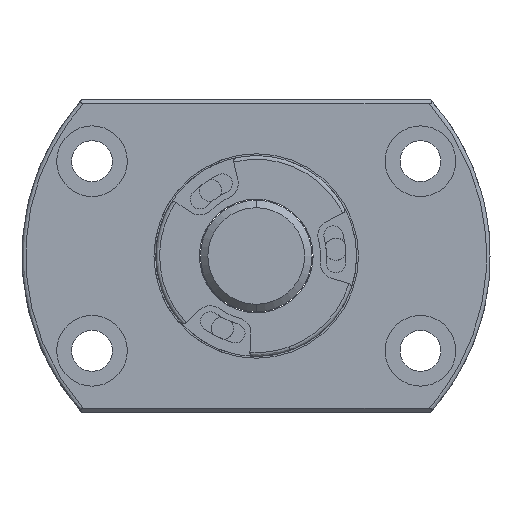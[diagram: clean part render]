
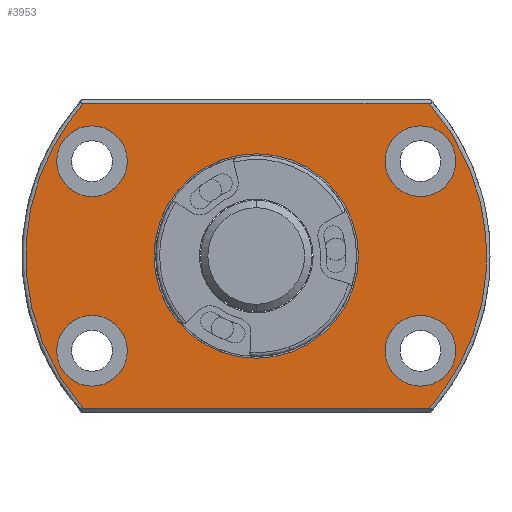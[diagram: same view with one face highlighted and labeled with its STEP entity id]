
A CAD part, left-side view. The second image highlights one B-rep face of the part: STEP entity #3953.
In plain terms, the highlighted planar face has unit normal (-1, 0, 0).
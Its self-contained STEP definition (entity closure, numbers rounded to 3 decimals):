
#157 = CIRCLE ( 'NONE', #3848, 4.75 ) ;
#158 = CARTESIAN_POINT ( 'NONE',  ( 0., 23.254, -20.5 ) ) ;
#221 = AXIS2_PLACEMENT_3D ( 'NONE', #6970, #3148, #7588 ) ;
#329 = VERTEX_POINT ( 'NONE', #2839 ) ;
#341 = VERTEX_POINT ( 'NONE', #4611 ) ;
#352 = LINE ( 'NONE', #3278, #8251 ) ;
#398 = ORIENTED_EDGE ( 'NONE', *, *, #752, .F. ) ;
#417 = EDGE_LOOP ( 'NONE', ( #3713, #490 ) ) ;
#490 = ORIENTED_EDGE ( 'NONE', *, *, #3958, .F. ) ;
#739 = DIRECTION ( 'NONE',  ( 0., -1., 0. ) ) ;
#743 = CARTESIAN_POINT ( 'NONE',  ( 0., -23.254, -20.5 ) ) ;
#751 = CARTESIAN_POINT ( 'NONE',  ( 0., 22.084, 12.75 ) ) ;
#752 = EDGE_CURVE ( 'NONE', #7512, #812, #5473, .T. ) ;
#812 = VERTEX_POINT ( 'NONE', #4678 ) ;
#816 = EDGE_CURVE ( 'NONE', #2095, #7512, #4579, .T. ) ;
#936 = VERTEX_POINT ( 'NONE', #7378 ) ;
#953 = CARTESIAN_POINT ( 'NONE',  ( 0., -22.084, -12.75 ) ) ;
#1092 = AXIS2_PLACEMENT_3D ( 'NONE', #2702, #3231, #3933 ) ;
#1155 = CARTESIAN_POINT ( 'NONE',  ( 0., -23.254, 20.5 ) ) ;
#1216 = CARTESIAN_POINT ( 'NONE',  ( 0., -22.084, 17.5 ) ) ;
#1249 = DIRECTION ( 'NONE',  ( -1., 0., 0. ) ) ;
#1336 = FACE_BOUND ( 'NONE', #3154, .T. ) ;
#1509 = CIRCLE ( 'NONE', #6398, 4.75 ) ;
#1804 = PLANE ( 'NONE',  #3384 ) ;
#1831 = DIRECTION ( 'NONE',  ( 0., 0., -1. ) ) ;
#1909 = DIRECTION ( 'NONE',  ( 0., 0., 1. ) ) ;
#1911 = CARTESIAN_POINT ( 'NONE',  ( 0., 0., 13.75 ) ) ;
#1934 = ORIENTED_EDGE ( 'NONE', *, *, #816, .F. ) ;
#2080 = EDGE_CURVE ( 'NONE', #936, #4534, #157, .T. ) ;
#2095 = VERTEX_POINT ( 'NONE', #1155 ) ;
#2104 = DIRECTION ( 'NONE',  ( 1., 0., 0. ) ) ;
#2125 = VERTEX_POINT ( 'NONE', #7521 ) ;
#2130 = EDGE_CURVE ( 'NONE', #7005, #3297, #6564, .T. ) ;
#2131 =( BOUNDED_CURVE ( )  B_SPLINE_CURVE ( 3, ( #158, #5943, #5265, #2732 ),
 .UNSPECIFIED., .F., .T. ) 
 B_SPLINE_CURVE_WITH_KNOTS ( ( 4, 4 ),
 ( 0., 1. ),
 .UNSPECIFIED. ) 
 CURVE ( )  GEOMETRIC_REPRESENTATION_ITEM ( )  RATIONAL_B_SPLINE_CURVE ( ( 1., 0.833, 0.833, 1. ) ) 
 REPRESENTATION_ITEM ( '' )  );
#2156 = CARTESIAN_POINT ( 'NONE',  ( 0., -34.098, 8.199 ) ) ;
#2227 = CIRCLE ( 'NONE', #3100, 4.75 ) ;
#2353 = EDGE_CURVE ( 'NONE', #3199, #2095, #352, .T. ) ;
#2363 = ORIENTED_EDGE ( 'NONE', *, *, #5379, .T. ) ;
#2638 = ORIENTED_EDGE ( 'NONE', *, *, #4566, .T. ) ;
#2702 = CARTESIAN_POINT ( 'NONE',  ( 0., 22.084, -12.75 ) ) ;
#2732 = CARTESIAN_POINT ( 'NONE',  ( 0., 23.254, 20.5 ) ) ;
#2839 = CARTESIAN_POINT ( 'NONE',  ( 0., 22.084, 17.5 ) ) ;
#3094 = AXIS2_PLACEMENT_3D ( 'NONE', #751, #2104, #6043 ) ;
#3100 = AXIS2_PLACEMENT_3D ( 'NONE', #3279, #3875, #7696 ) ;
#3145 = CARTESIAN_POINT ( 'NONE',  ( 0., 0., 0. ) ) ;
#3148 = DIRECTION ( 'NONE',  ( 1., 0., 0. ) ) ;
#3154 = EDGE_LOOP ( 'NONE', ( #5312, #2638 ) ) ;
#3199 = VERTEX_POINT ( 'NONE', #5893 ) ;
#3231 = DIRECTION ( 'NONE',  ( 1., 0., 0. ) ) ;
#3278 = CARTESIAN_POINT ( 'NONE',  ( 0., 0., 20.5 ) ) ;
#3279 = CARTESIAN_POINT ( 'NONE',  ( 0., -22.084, 12.75 ) ) ;
#3283 = CARTESIAN_POINT ( 'NONE',  ( 0., 0., -20.5 ) ) ;
#3297 = VERTEX_POINT ( 'NONE', #3481 ) ;
#3384 = AXIS2_PLACEMENT_3D ( 'NONE', #3145, #6368, #1831 ) ;
#3464 = CARTESIAN_POINT ( 'NONE',  ( 0., -34.098, -8.199 ) ) ;
#3481 = CARTESIAN_POINT ( 'NONE',  ( 0., 0., -13.75 ) ) ;
#3596 = EDGE_CURVE ( 'NONE', #812, #3199, #2131, .T. ) ;
#3630 = CIRCLE ( 'NONE', #1092, 4.75 ) ;
#3660 = DIRECTION ( 'NONE',  ( 1., 0., 0. ) ) ;
#3713 = ORIENTED_EDGE ( 'NONE', *, *, #2130, .F. ) ;
#3799 = ORIENTED_EDGE ( 'NONE', *, *, #5317, .T. ) ;
#3848 = AXIS2_PLACEMENT_3D ( 'NONE', #4994, #3660, #8075 ) ;
#3853 = EDGE_LOOP ( 'NONE', ( #3799, #7301 ) ) ;
#3875 = DIRECTION ( 'NONE',  ( 1., 0., 0. ) ) ;
#3907 = VERTEX_POINT ( 'NONE', #1216 ) ;
#3933 = DIRECTION ( 'NONE',  ( 0., 0., 1. ) ) ;
#3953 = ADVANCED_FACE ( 'NONE', ( #6635, #5135, #1336, #8234, #7051, #8124 ), #1804, .F. ) ;
#3958 = EDGE_CURVE ( 'NONE', #3297, #7005, #4838, .T. ) ;
#4278 = AXIS2_PLACEMENT_3D ( 'NONE', #5537, #6808, #7441 ) ;
#4310 = AXIS2_PLACEMENT_3D ( 'NONE', #953, #7949, #7978 ) ;
#4339 = EDGE_LOOP ( 'NONE', ( #6145, #5162 ) ) ;
#4351 = AXIS2_PLACEMENT_3D ( 'NONE', #7035, #6441, #7007 ) ;
#4534 = VERTEX_POINT ( 'NONE', #5784 ) ;
#4566 = EDGE_CURVE ( 'NONE', #6538, #329, #7126, .T. ) ;
#4579 =( BOUNDED_CURVE ( )  B_SPLINE_CURVE ( 3, ( #7884, #2156, #3464, #4655 ),
 .UNSPECIFIED., .F., .F. ) 
 B_SPLINE_CURVE_WITH_KNOTS ( ( 4, 4 ),
 ( 0., 1. ),
 .UNSPECIFIED. ) 
 CURVE ( )  GEOMETRIC_REPRESENTATION_ITEM ( )  RATIONAL_B_SPLINE_CURVE ( ( 1., 0.833, 0.833, 1. ) ) 
 REPRESENTATION_ITEM ( '' )  );
#4611 = CARTESIAN_POINT ( 'NONE',  ( 0., -22.084, -8. ) ) ;
#4655 = CARTESIAN_POINT ( 'NONE',  ( 0., -23.254, -20.5 ) ) ;
#4678 = CARTESIAN_POINT ( 'NONE',  ( 0., 23.254, -20.5 ) ) ;
#4689 = EDGE_LOOP ( 'NONE', ( #6277, #5654, #398, #1934 ) ) ;
#4838 = CIRCLE ( 'NONE', #7548, 13.75 ) ;
#4913 = CIRCLE ( 'NONE', #221, 4.75 ) ;
#4932 = EDGE_LOOP ( 'NONE', ( #2363, #7413 ) ) ;
#4940 = CIRCLE ( 'NONE', #4310, 4.75 ) ;
#4994 = CARTESIAN_POINT ( 'NONE',  ( 0., 22.084, -12.75 ) ) ;
#5005 = CARTESIAN_POINT ( 'NONE',  ( 0., -22.084, 12.75 ) ) ;
#5135 = FACE_BOUND ( 'NONE', #4932, .T. ) ;
#5160 = DIRECTION ( 'NONE',  ( 0., 1., 0. ) ) ;
#5162 = ORIENTED_EDGE ( 'NONE', *, *, #7979, .T. ) ;
#5191 = CARTESIAN_POINT ( 'NONE',  ( 0., 22.084, 8. ) ) ;
#5265 = CARTESIAN_POINT ( 'NONE',  ( 0., 34.098, 8.199 ) ) ;
#5312 = ORIENTED_EDGE ( 'NONE', *, *, #7078, .T. ) ;
#5317 = EDGE_CURVE ( 'NONE', #3907, #6905, #1509, .T. ) ;
#5363 = EDGE_CURVE ( 'NONE', #341, #2125, #4913, .T. ) ;
#5379 = EDGE_CURVE ( 'NONE', #4534, #936, #3630, .T. ) ;
#5473 = LINE ( 'NONE', #3283, #6180 ) ;
#5537 = CARTESIAN_POINT ( 'NONE',  ( 0., 0., 0. ) ) ;
#5654 = ORIENTED_EDGE ( 'NONE', *, *, #3596, .F. ) ;
#5711 = DIRECTION ( 'NONE',  ( 0., 0., 1. ) ) ;
#5784 = CARTESIAN_POINT ( 'NONE',  ( 0., 22.084, -8. ) ) ;
#5893 = CARTESIAN_POINT ( 'NONE',  ( 0., 23.254, 20.5 ) ) ;
#5943 = CARTESIAN_POINT ( 'NONE',  ( 0., 34.098, -8.199 ) ) ;
#5977 = EDGE_CURVE ( 'NONE', #6905, #3907, #2227, .T. ) ;
#6043 = DIRECTION ( 'NONE',  ( 0., 0., 1. ) ) ;
#6145 = ORIENTED_EDGE ( 'NONE', *, *, #5363, .T. ) ;
#6180 = VECTOR ( 'NONE', #5160, 1000. ) ;
#6277 = ORIENTED_EDGE ( 'NONE', *, *, #2353, .F. ) ;
#6368 = DIRECTION ( 'NONE',  ( 1., 0., 0. ) ) ;
#6398 = AXIS2_PLACEMENT_3D ( 'NONE', #5005, #6994, #1909 ) ;
#6441 = DIRECTION ( 'NONE',  ( 1., 0., 0. ) ) ;
#6538 = VERTEX_POINT ( 'NONE', #5191 ) ;
#6564 = CIRCLE ( 'NONE', #4278, 13.75 ) ;
#6635 = FACE_OUTER_BOUND ( 'NONE', #4689, .T. ) ;
#6808 = DIRECTION ( 'NONE',  ( -1., 0., 0. ) ) ;
#6884 = CARTESIAN_POINT ( 'NONE',  ( 0., -22.084, 8. ) ) ;
#6905 = VERTEX_POINT ( 'NONE', #6884 ) ;
#6937 = CARTESIAN_POINT ( 'NONE',  ( 0., 0., 0. ) ) ;
#6970 = CARTESIAN_POINT ( 'NONE',  ( 0., -22.084, -12.75 ) ) ;
#6994 = DIRECTION ( 'NONE',  ( 1., 0., 0. ) ) ;
#7005 = VERTEX_POINT ( 'NONE', #1911 ) ;
#7007 = DIRECTION ( 'NONE',  ( 0., 0., 1. ) ) ;
#7035 = CARTESIAN_POINT ( 'NONE',  ( 0., 22.084, 12.75 ) ) ;
#7051 = FACE_BOUND ( 'NONE', #4339, .T. ) ;
#7078 = EDGE_CURVE ( 'NONE', #329, #6538, #7663, .T. ) ;
#7126 = CIRCLE ( 'NONE', #4351, 4.75 ) ;
#7301 = ORIENTED_EDGE ( 'NONE', *, *, #5977, .T. ) ;
#7378 = CARTESIAN_POINT ( 'NONE',  ( 0., 22.084, -17.5 ) ) ;
#7413 = ORIENTED_EDGE ( 'NONE', *, *, #2080, .T. ) ;
#7441 = DIRECTION ( 'NONE',  ( 0., 0., 1. ) ) ;
#7512 = VERTEX_POINT ( 'NONE', #743 ) ;
#7521 = CARTESIAN_POINT ( 'NONE',  ( 0., -22.084, -17.5 ) ) ;
#7548 = AXIS2_PLACEMENT_3D ( 'NONE', #6937, #1249, #5711 ) ;
#7588 = DIRECTION ( 'NONE',  ( 0., 0., 1. ) ) ;
#7663 = CIRCLE ( 'NONE', #3094, 4.75 ) ;
#7696 = DIRECTION ( 'NONE',  ( 0., 0., 1. ) ) ;
#7884 = CARTESIAN_POINT ( 'NONE',  ( 0., -23.254, 20.5 ) ) ;
#7949 = DIRECTION ( 'NONE',  ( 1., 0., 0. ) ) ;
#7978 = DIRECTION ( 'NONE',  ( 0., 0., 1. ) ) ;
#7979 = EDGE_CURVE ( 'NONE', #2125, #341, #4940, .T. ) ;
#8075 = DIRECTION ( 'NONE',  ( 0., 0., 1. ) ) ;
#8124 = FACE_BOUND ( 'NONE', #417, .T. ) ;
#8234 = FACE_BOUND ( 'NONE', #3853, .T. ) ;
#8251 = VECTOR ( 'NONE', #739, 1000. ) ;
